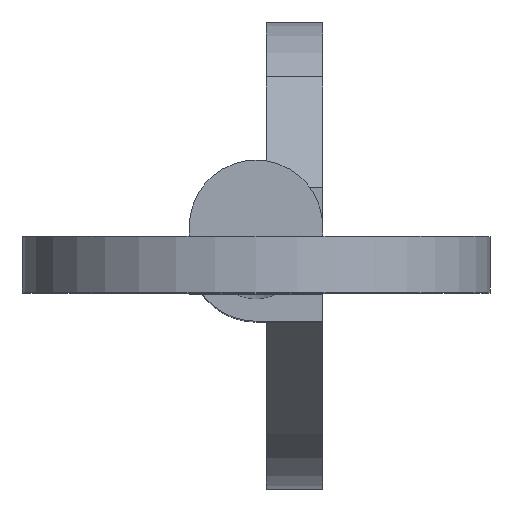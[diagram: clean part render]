
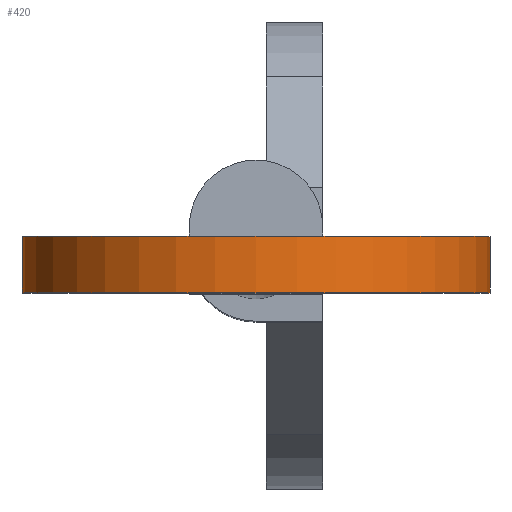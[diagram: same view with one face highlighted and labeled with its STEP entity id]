
A CAD part, top view. The second image highlights one B-rep face of the part: STEP entity #420.
In plain terms, the highlighted cylindrical face has radius 4.19 mm (diameter 8.38 mm), a partial arc.
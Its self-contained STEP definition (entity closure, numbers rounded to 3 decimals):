
#16 = VERTEX_POINT ( 'NONE', #795 ) ;
#50 = FACE_OUTER_BOUND ( 'NONE', #464, .T. ) ;
#57 = DIRECTION ( 'NONE',  ( 0., -1., 0. ) ) ;
#78 = DIRECTION ( 'NONE',  ( 0., 0., -1. ) ) ;
#148 = EDGE_CURVE ( 'NONE', #328, #418, #565, .T. ) ;
#179 = EDGE_CURVE ( 'NONE', #467, #16, #412, .T. ) ;
#213 = DIRECTION ( 'NONE',  ( 0., -1., 0. ) ) ;
#228 = AXIS2_PLACEMENT_3D ( 'NONE', #476, #408, #78 ) ;
#233 = DIRECTION ( 'NONE',  ( 0., 0., -1. ) ) ;
#277 = CARTESIAN_POINT ( 'NONE',  ( 0., -0.185, 152.4 ) ) ;
#310 = CYLINDRICAL_SURFACE ( 'NONE', #470, 4.19 ) ;
#320 = EDGE_CURVE ( 'NONE', #418, #16, #748, .T. ) ;
#328 = VERTEX_POINT ( 'NONE', #595 ) ;
#333 = ORIENTED_EDGE ( 'NONE', *, *, #494, .F. ) ;
#371 = CARTESIAN_POINT ( 'NONE',  ( 3.202, -1.195, 149.697 ) ) ;
#375 = CARTESIAN_POINT ( 'NONE',  ( 3.202, -0.185, 149.697 ) ) ;
#393 = CARTESIAN_POINT ( 'NONE',  ( -3.202, -0.185, 149.697 ) ) ;
#408 = DIRECTION ( 'NONE',  ( 0., -1., 0. ) ) ;
#412 = CIRCLE ( 'NONE', #228, 4.19 ) ;
#413 = ORIENTED_EDGE ( 'NONE', *, *, #148, .T. ) ;
#418 = VERTEX_POINT ( 'NONE', #649 ) ;
#420 = ADVANCED_FACE ( 'NONE', ( #50 ), #310, .T. ) ;
#464 = EDGE_LOOP ( 'NONE', ( #640, #333, #413, #590 ) ) ;
#467 = VERTEX_POINT ( 'NONE', #371 ) ;
#470 = AXIS2_PLACEMENT_3D ( 'NONE', #726, #587, #233 ) ;
#476 = CARTESIAN_POINT ( 'NONE',  ( 0., -1.195, 152.4 ) ) ;
#487 = DIRECTION ( 'NONE',  ( 0., 0., -1. ) ) ;
#494 = EDGE_CURVE ( 'NONE', #328, #467, #716, .T. ) ;
#501 = DIRECTION ( 'NONE',  ( 0., -1., 0. ) ) ;
#520 = VECTOR ( 'NONE', #57, 1000. ) ;
#539 = AXIS2_PLACEMENT_3D ( 'NONE', #277, #213, #487 ) ;
#565 = CIRCLE ( 'NONE', #539, 4.19 ) ;
#587 = DIRECTION ( 'NONE',  ( 0., -1., 0. ) ) ;
#590 = ORIENTED_EDGE ( 'NONE', *, *, #320, .T. ) ;
#595 = CARTESIAN_POINT ( 'NONE',  ( 3.202, -0.185, 149.697 ) ) ;
#640 = ORIENTED_EDGE ( 'NONE', *, *, #179, .F. ) ;
#649 = CARTESIAN_POINT ( 'NONE',  ( -3.202, -0.185, 149.697 ) ) ;
#685 = VECTOR ( 'NONE', #501, 1000. ) ;
#716 = LINE ( 'NONE', #375, #685 ) ;
#726 = CARTESIAN_POINT ( 'NONE',  ( 0., -0.185, 152.4 ) ) ;
#748 = LINE ( 'NONE', #393, #520 ) ;
#795 = CARTESIAN_POINT ( 'NONE',  ( -3.202, -1.195, 149.697 ) ) ;
